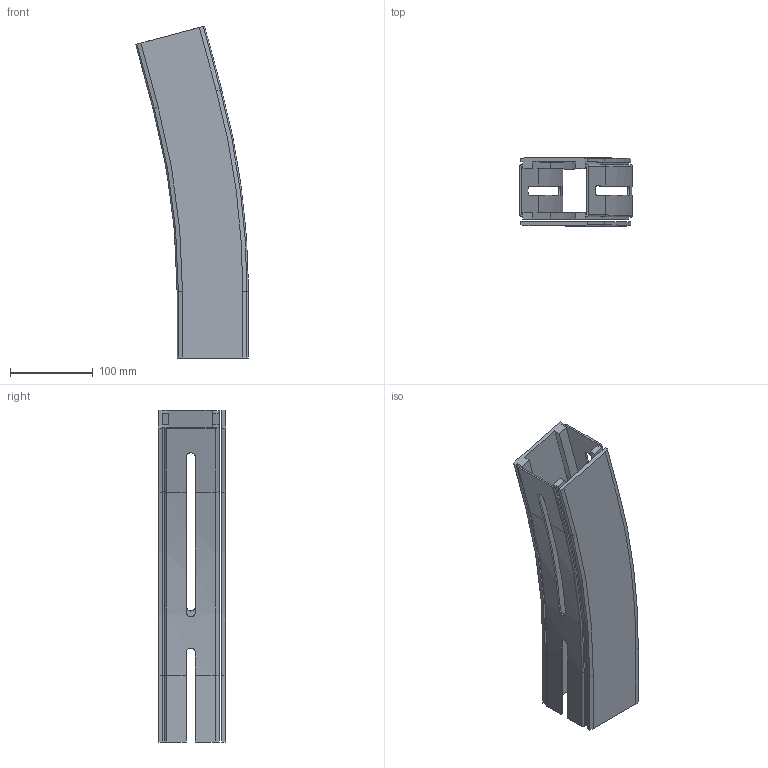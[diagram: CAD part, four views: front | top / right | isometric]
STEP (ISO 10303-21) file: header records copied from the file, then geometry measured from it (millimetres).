
FILE_DESCRIPTION(/* description */ ('GLIDKURVA SERIE 530'),/* implementation_level */ '2;1');
FILE_NAME(/* name */ '530-5375+830-2000-01.stp',/* time_stamp */ '2022-09-20T15:59:20+02:00',/* author */ ('Mathias.Dore'),/* organization */ ('CARRYLINE'),/* preprocessor_version */ 'ST-DEVELOPER v19.2',/* originating_system */ 'Autodesk Inventor 2023',/* authorisation */ '');
FILE_SCHEMA (('AUTOMOTIVE_DESIGN { 1 0 10303 214 3 1 1 }'));
Length unit declared in the file: millimetre
Products named in the file (1): 530-5375+830-2000-01
Bounding box: 135.91 x 82 x 401.34 mm (x, y, z)
Volume: 573176.4 mm3; surface area: 275900.4 mm2
Topology: 2 solids, 2 shells, 163 faces, 458 edges, 300 vertices
Faces by surface type: plane 107, cylinder 30, bspline 18, torus 4, cone 4
Entity records: 5597 total; most frequent: CARTESIAN_POINT 1328, ORIENTED_EDGE 916, DIRECTION 798, EDGE_CURVE 458, LINE 338, VECTOR 338, VERTEX_POINT 300, AXIS2_PLACEMENT_3D 230
